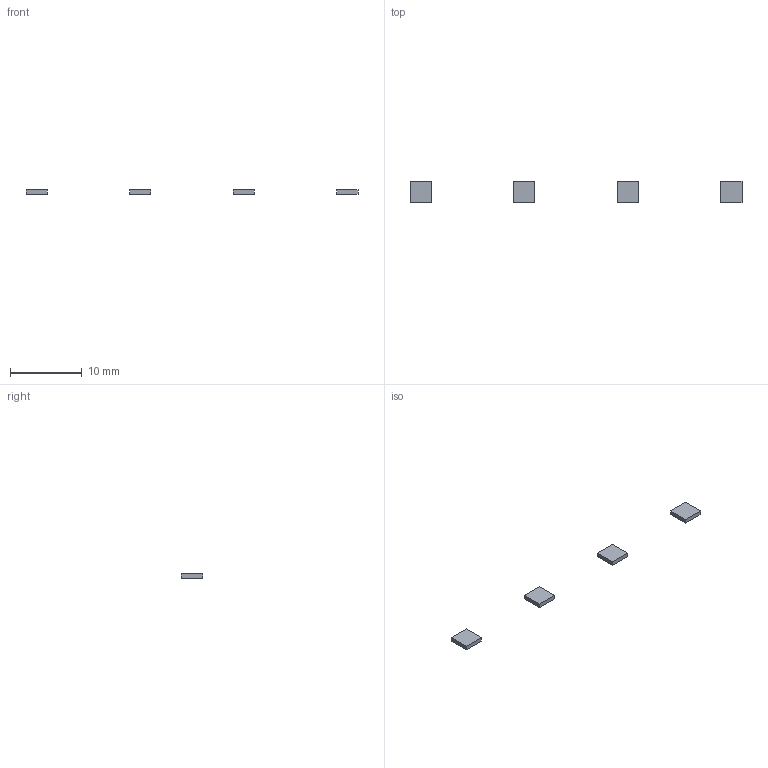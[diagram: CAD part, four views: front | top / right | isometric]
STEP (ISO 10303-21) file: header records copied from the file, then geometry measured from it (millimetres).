
FILE_DESCRIPTION(('Open CASCADE Model'),'2;1');
FILE_NAME('Open CASCADE Shape Model','2026-09-29T12:48:04',('Author'),( 'Open CASCADE'),'Open CASCADE STEP processor 7.9','Open CASCADE 7.9' ,'Unknown');
FILE_SCHEMA(('AUTOMOTIVE_DESIGN { 1 0 10303 214 1 1 1 1 }'));
Length unit declared in the file: millimetre
Products named in the file (5): Open CASCADE STEP translator 7.9 29; Open CASCADE STEP translator 7.9 29.1; Open CASCADE STEP translator 7.9 29.2; Open CASCADE STEP translator 7.9 29.3; Open CASCADE STEP translator 7.9 29.4
Assembly tree (4 placements, depth 2):
  Open CASCADE STEP translator 7.9 29
    Open CASCADE STEP translator 7.9 29.1
    Open CASCADE STEP translator 7.9 29.2
    Open CASCADE STEP translator 7.9 29.3
    Open CASCADE STEP translator 7.9 29.4
Bounding box: 46.33 x 3 x 0.6 mm (x, y, z)
Volume: 21.6 mm3; surface area: 100.8 mm2
Topology: 4 solids, 4 shells, 24 faces, 48 edges, 32 vertices
Faces by surface type: plane 24
Entity records: 1312 total; most frequent: CARTESIAN_POINT 205, DIRECTION 202, LINE 144, VECTOR 144, ORIENTED_EDGE 96, PCURVE 96, DEFINITIONAL_REPRESENTATION 96, EDGE_CURVE 48
